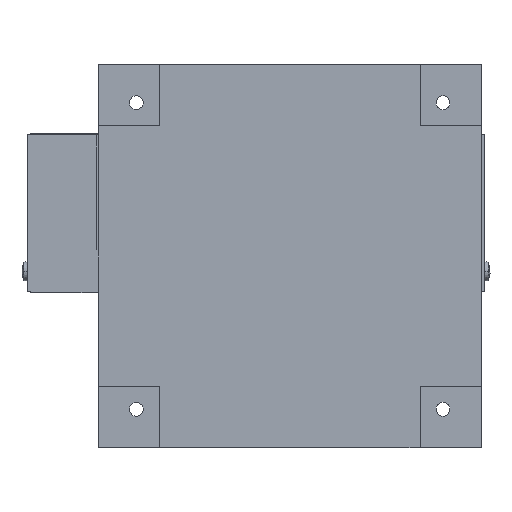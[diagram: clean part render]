
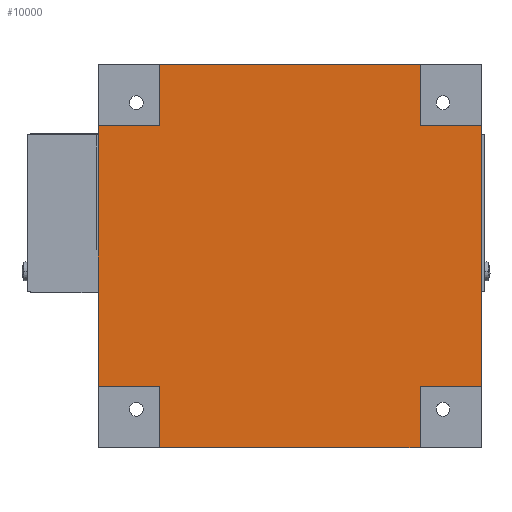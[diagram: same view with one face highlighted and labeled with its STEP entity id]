
A CAD part, front view. The second image highlights one B-rep face of the part: STEP entity #10000.
In plain terms, the highlighted planar face has unit normal (0, -1, 0).
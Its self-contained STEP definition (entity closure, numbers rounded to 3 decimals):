
#9652 = EDGE_CURVE ( 'NONE', #9653, #9663, #16764, .T. ) ;
#9653 = VERTEX_POINT ( 'NONE', #17151 ) ;
#9663 = VERTEX_POINT ( 'NONE', #17263 ) ;
#9666 = VERTEX_POINT ( 'NONE', #17258 ) ;
#9670 = VERTEX_POINT ( 'NONE', #17252 ) ;
#9675 = VERTEX_POINT ( 'NONE', #17245 ) ;
#9688 = EDGE_CURVE ( 'NONE', #9834, #9838, #17227, .T. ) ;
#9689 = ORIENTED_EDGE ( 'NONE', *, *, #9833, .T. ) ;
#9810 = VERTEX_POINT ( 'NONE', #17335 ) ;
#9825 = EDGE_CURVE ( 'NONE', #9973, #9670, #17457, .T. ) ;
#9833 = EDGE_CURVE ( 'NONE', #9834, #9973, #17448, .T. ) ;
#9834 = VERTEX_POINT ( 'NONE', #17444 ) ;
#9838 = VERTEX_POINT ( 'NONE', #17532 ) ;
#9840 = VERTEX_POINT ( 'NONE', #17531 ) ;
#9843 = EDGE_CURVE ( 'NONE', #9663, #9666, #17524, .T. ) ;
#9846 = EDGE_CURVE ( 'NONE', #9840, #9675, #17520, .T. ) ;
#9960 = EDGE_CURVE ( 'NONE', #9840, #9666, #17978, .T. ) ;
#9973 = VERTEX_POINT ( 'NONE', #18096 ) ;
#9979 = EDGE_CURVE ( 'NONE', #9810, #9838, #18157, .T. ) ;
#10000 = ADVANCED_FACE ( 'NONE', ( #17908 ), #17907, .F. ) ;
#10010 = VERTEX_POINT ( 'NONE', #17890 ) ;
#10012 = EDGE_CURVE ( 'NONE', #9675, #10010, #17889, .T. ) ;
#10030 = ORIENTED_EDGE ( 'NONE', *, *, #9979, .T. ) ;
#10031 = ORIENTED_EDGE ( 'NONE', *, *, #9688, .F. ) ;
#10062 = ORIENTED_EDGE ( 'NONE', *, *, #10111, .T. ) ;
#10063 = ORIENTED_EDGE ( 'NONE', *, *, #10064, .F. ) ;
#10064 = EDGE_CURVE ( 'NONE', #10070, #10010, #19239, .T. ) ;
#10069 = EDGE_LOOP ( 'NONE', ( #10062, #10030, #10031, #9689, #10112, #10113, #10115, #10116, #10117, #10118, #10119, #10063 ) ) ;
#10070 = VERTEX_POINT ( 'NONE', #19225 ) ;
#10111 = EDGE_CURVE ( 'NONE', #10070, #9810, #19296, .T. ) ;
#10112 = ORIENTED_EDGE ( 'NONE', *, *, #9825, .T. ) ;
#10113 = ORIENTED_EDGE ( 'NONE', *, *, #10114, .F. ) ;
#10114 = EDGE_CURVE ( 'NONE', #9653, #9670, #19292, .T. ) ;
#10115 = ORIENTED_EDGE ( 'NONE', *, *, #9652, .T. ) ;
#10116 = ORIENTED_EDGE ( 'NONE', *, *, #9843, .T. ) ;
#10117 = ORIENTED_EDGE ( 'NONE', *, *, #9960, .F. ) ;
#10118 = ORIENTED_EDGE ( 'NONE', *, *, #9846, .T. ) ;
#10119 = ORIENTED_EDGE ( 'NONE', *, *, #10012, .T. ) ;
#16761 = DIRECTION ( 'NONE',  ( 1., 0., 0. ) ) ;
#16762 = VECTOR ( 'NONE', #16761, 1000. ) ;
#16763 = CARTESIAN_POINT ( 'NONE',  ( -62.5, 0.5, -42.5 ) ) ;
#16764 = LINE ( 'NONE', #16763, #16762 ) ;
#17151 = CARTESIAN_POINT ( 'NONE',  ( -62.5, 0.5, -42.5 ) ) ;
#17220 = DIRECTION ( 'NONE',  ( 1., 0., 0. ) ) ;
#17221 = VECTOR ( 'NONE', #17220, 1000. ) ;
#17222 = CARTESIAN_POINT ( 'NONE',  ( 62.5, 0.5, 62.5 ) ) ;
#17227 = LINE ( 'NONE', #17222, #17221 ) ;
#17245 = CARTESIAN_POINT ( 'NONE',  ( 42.5, 0.5, -42.5 ) ) ;
#17252 = CARTESIAN_POINT ( 'NONE',  ( -62.5, 0.5, 42.5 ) ) ;
#17258 = CARTESIAN_POINT ( 'NONE',  ( -42.5, 0.5, -62.5 ) ) ;
#17263 = CARTESIAN_POINT ( 'NONE',  ( -42.5, 0.5, -42.5 ) ) ;
#17335 = CARTESIAN_POINT ( 'NONE',  ( 42.5, 0.5, 42.5 ) ) ;
#17444 = CARTESIAN_POINT ( 'NONE',  ( -42.5, 0.5, 62.5 ) ) ;
#17445 = DIRECTION ( 'NONE',  ( 0., 0., -1. ) ) ;
#17446 = VECTOR ( 'NONE', #17445, 1000. ) ;
#17447 = CARTESIAN_POINT ( 'NONE',  ( -42.5, 0.5, 62.5 ) ) ;
#17448 = LINE ( 'NONE', #17447, #17446 ) ;
#17454 = DIRECTION ( 'NONE',  ( -1., 0., 0. ) ) ;
#17455 = VECTOR ( 'NONE', #17454, 1000. ) ;
#17456 = CARTESIAN_POINT ( 'NONE',  ( -62.5, 0.5, 42.5 ) ) ;
#17457 = LINE ( 'NONE', #17456, #17455 ) ;
#17517 = DIRECTION ( 'NONE',  ( 0., 0., 1. ) ) ;
#17518 = VECTOR ( 'NONE', #17517, 1000. ) ;
#17519 = CARTESIAN_POINT ( 'NONE',  ( 42.5, 0.5, -42.5 ) ) ;
#17520 = LINE ( 'NONE', #17519, #17518 ) ;
#17521 = DIRECTION ( 'NONE',  ( 0., 0., -1. ) ) ;
#17522 = VECTOR ( 'NONE', #17521, 1000. ) ;
#17523 = CARTESIAN_POINT ( 'NONE',  ( -42.5, 0.5, -42.5 ) ) ;
#17524 = LINE ( 'NONE', #17523, #17522 ) ;
#17531 = CARTESIAN_POINT ( 'NONE',  ( 42.5, 0.5, -62.5 ) ) ;
#17532 = CARTESIAN_POINT ( 'NONE',  ( 42.5, 0.5, 62.5 ) ) ;
#17886 = DIRECTION ( 'NONE',  ( 1., 0., 0. ) ) ;
#17887 = VECTOR ( 'NONE', #17886, 1000. ) ;
#17888 = CARTESIAN_POINT ( 'NONE',  ( 42.5, 0.5, -42.5 ) ) ;
#17889 = LINE ( 'NONE', #17888, #17887 ) ;
#17890 = CARTESIAN_POINT ( 'NONE',  ( 62.5, 0.5, -42.5 ) ) ;
#17903 = DIRECTION ( 'NONE',  ( 0., 0., -1. ) ) ;
#17904 = DIRECTION ( 'NONE',  ( 0., 1., 0. ) ) ;
#17905 = CARTESIAN_POINT ( 'NONE',  ( -3.951, 0.5, 1.945 ) ) ;
#17906 = AXIS2_PLACEMENT_3D ( 'NONE', #17905, #17904, #17903 ) ;
#17907 = PLANE ( 'NONE',  #17906 ) ;
#17908 = FACE_OUTER_BOUND ( 'NONE', #10069, .T. ) ;
#17975 = DIRECTION ( 'NONE',  ( -1., 0., 0. ) ) ;
#17976 = VECTOR ( 'NONE', #17975, 1000. ) ;
#17977 = CARTESIAN_POINT ( 'NONE',  ( 62.5, 0.5, -62.5 ) ) ;
#17978 = LINE ( 'NONE', #17977, #17976 ) ;
#18096 = CARTESIAN_POINT ( 'NONE',  ( -42.5, 0.5, 42.5 ) ) ;
#18151 = DIRECTION ( 'NONE',  ( 0., 0., 1. ) ) ;
#18152 = VECTOR ( 'NONE', #18151, 1000. ) ;
#18153 = CARTESIAN_POINT ( 'NONE',  ( 42.5, 0.5, 62.5 ) ) ;
#18157 = LINE ( 'NONE', #18153, #18152 ) ;
#19225 = CARTESIAN_POINT ( 'NONE',  ( 62.5, 0.5, 42.5 ) ) ;
#19236 = DIRECTION ( 'NONE',  ( 0., 0., -1. ) ) ;
#19237 = VECTOR ( 'NONE', #19236, 1000. ) ;
#19238 = CARTESIAN_POINT ( 'NONE',  ( 62.5, 0.5, 62.5 ) ) ;
#19239 = LINE ( 'NONE', #19238, #19237 ) ;
#19289 = DIRECTION ( 'NONE',  ( 0., 0., 1. ) ) ;
#19290 = VECTOR ( 'NONE', #19289, 1000. ) ;
#19291 = CARTESIAN_POINT ( 'NONE',  ( -62.5, 0.5, 62.5 ) ) ;
#19292 = LINE ( 'NONE', #19291, #19290 ) ;
#19293 = DIRECTION ( 'NONE',  ( -1., 0., 0. ) ) ;
#19294 = VECTOR ( 'NONE', #19293, 1000. ) ;
#19295 = CARTESIAN_POINT ( 'NONE',  ( 42.5, 0.5, 42.5 ) ) ;
#19296 = LINE ( 'NONE', #19295, #19294 ) ;
